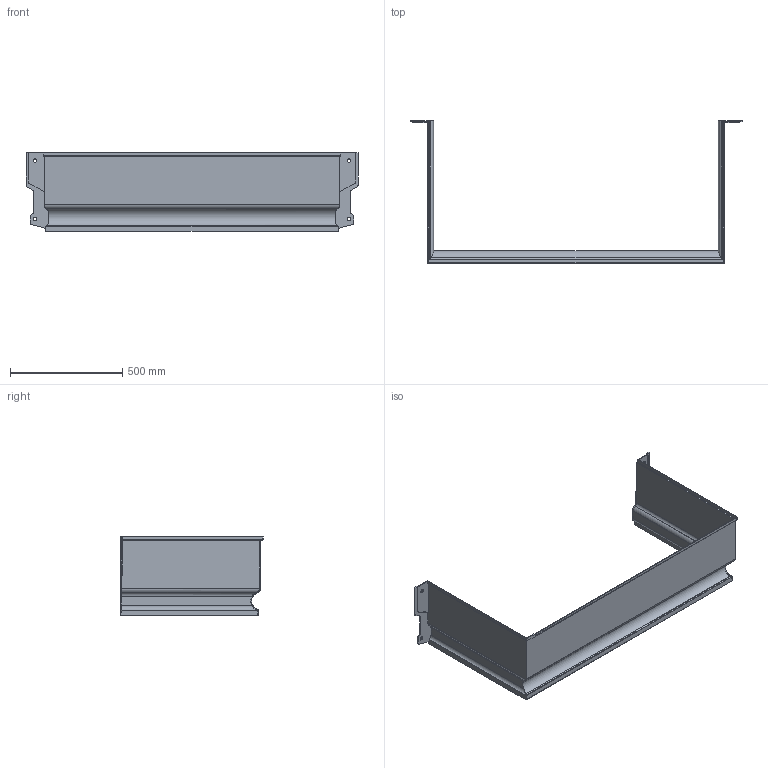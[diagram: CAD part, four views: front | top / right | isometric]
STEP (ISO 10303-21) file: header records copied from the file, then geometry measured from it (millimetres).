
FILE_DESCRIPTION(/* description */ (''),/* implementation_level */ '2;1');
FILE_NAME(/* name */ 'Q:\sge-bs-neu-2008\Marketing\CAD Zeichnungen\3D-CAD-Daten\3D Daten Website\- MEA Multinorm Aufsatz Kunststofflichtschacht_\Step\MEA_MULTINORM_Aufsatz_125x35x60.stp',/* time_stamp */ '2019-02-14T13:21:19+01:00',/* author */ ('avgrahammj'),/* organization */ (''),/* preprocessor_version */ 'ST-DEVELOPER v16.1',/* originating_system */ 'Autodesk Inventor 2016',/* authorisation */ '');
FILE_SCHEMA (('AUTOMOTIVE_DESIGN { 1 0 10303 214 3 1 1 }'));
Length unit declared in the file: centimetre
Products named in the file (1): MEA_MULTINORM_Aufsatz_125x35x60
Bounding box: 1480 x 634 x 350 mm (x, y, z)
Volume: 4018674.6 mm3; surface area: 2034945.6 mm2
Topology: 1 solids, 1 shells, 93 faces, 269 edges, 178 vertices
Faces by surface type: plane 61, cylinder 32
Full cylindrical faces by diameter (mm): 16 x4
Entity records: 3198 total; most frequent: CARTESIAN_POINT 721, ORIENTED_EDGE 526, DIRECTION 481, EDGE_CURVE 263, LINE 193, VECTOR 193, VERTEX_POINT 176, AXIS2_PLACEMENT_3D 144
